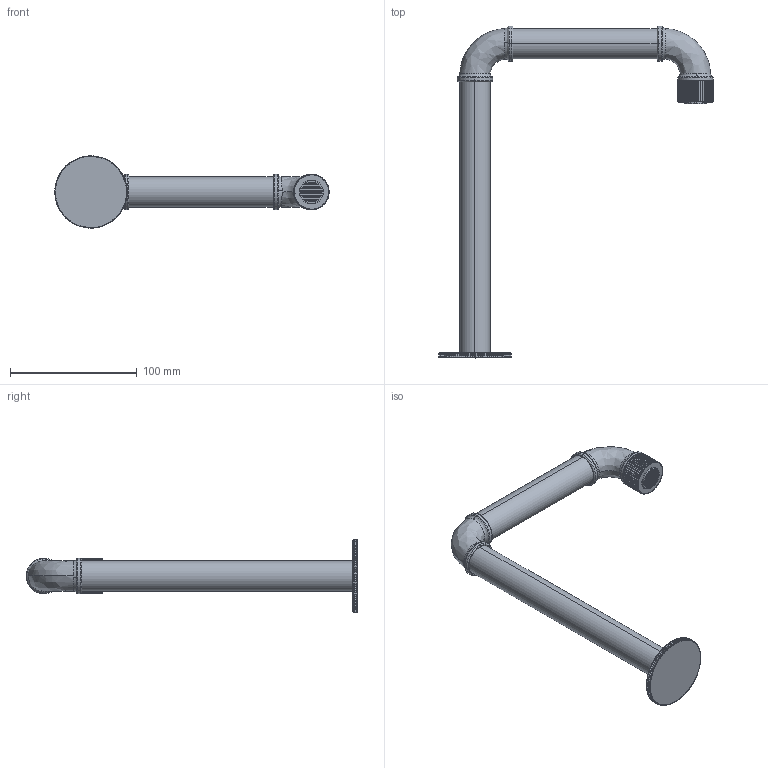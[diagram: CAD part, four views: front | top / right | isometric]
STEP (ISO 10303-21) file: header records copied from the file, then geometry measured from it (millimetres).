
FILE_DESCRIPTION (( 'STEP AP214' ), '1' );
FILE_NAME ('9921N810 x architetti.STEP', '2024-11-22T13:11:30', ( '' ), ( '' ), 'SwSTEP 2.0', 'SolidWorks 2020', '' );
FILE_SCHEMA (( 'AUTOMOTIVE_DESIGN' ));
Length unit declared in the file: millimetre
Products named in the file (3): 9921N810 x architetti; F0007799
Assembly tree (2 placements, depth 2):
  9921N810 x architetti
    9921N810 x architetti
    F0007799
Bounding box: 216.5 x 262 x 57 mm (x, y, z)
Volume: 216786.8 mm3; surface area: 46171.5 mm2
Topology: 8 solids, 13 shells, 3784 faces, 9425 edges, 6237 vertices
Faces by surface type: plane 3012, cylinder 413, bspline 280, torus 59, cone 16, sphere 4
Entity records: 124555 total; most frequent: CARTESIAN_POINT 37405, ORIENTED_EDGE 18848, DIRECTION 16110, EDGE_CURVE 9424, VERTEX_POINT 6237, VECTOR 5880, LINE 5880, AXIS2_PLACEMENT_3D 5115
